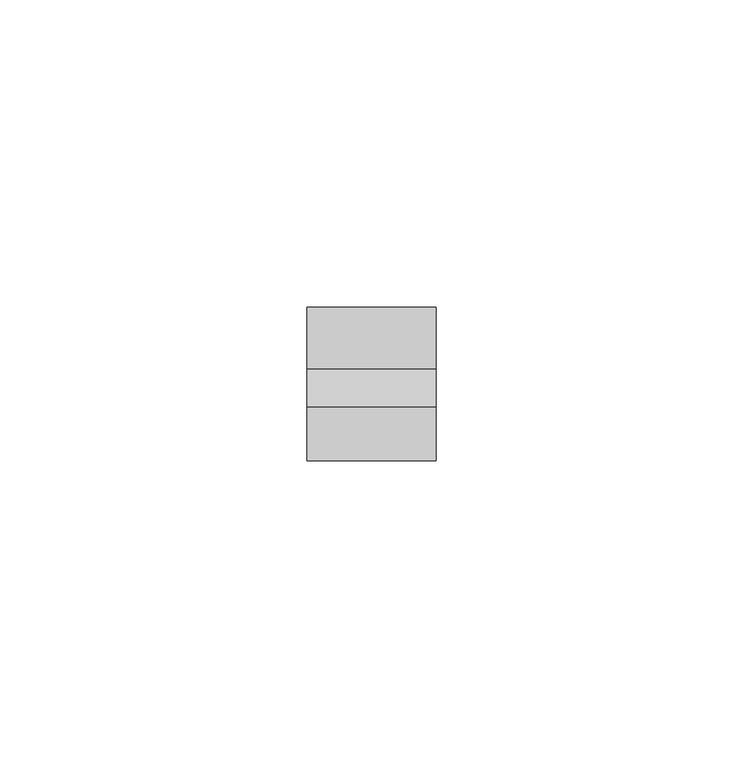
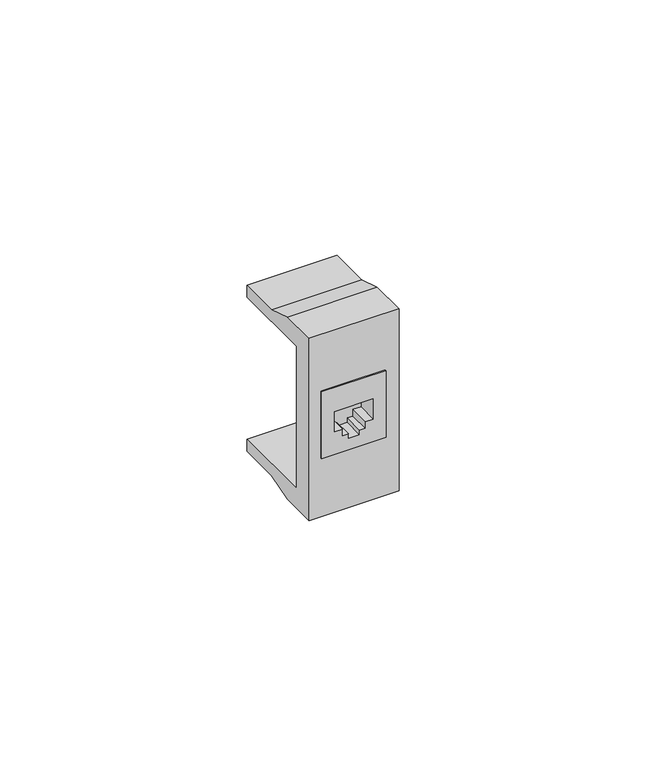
"""IFC4 building model written with IfcOpenShell, lengths in millimetres: proxy geometry, КНС_КомпьютерныеРозетки_DKC : Категория 5e."""

from ifc_helpers import new_model, si_unit, origin, place, context, project, spatial, faceted_brep, source, transform, mapped, element, save


def electrical_fixtures_a8bc6f34(model_context):
    return source(origin(), model_context, "Body", "Brep", [
        faceted_brep([(7.5, -25.0, 8.25), (-7.5, -25.0, 8.25), (-7.5, -25.0, -8.25), (7.5, -25.0, -8.25), (-2.6200027, -25.0, -2.65625), (-4.5217014, -25.0, -2.65625), (-4.5217014, -25.0, 2.3669591), (4.5217014, -25.0, 2.3669591), (4.5217014, -25.0, -2.65625), (2.6200027, -25.0, -2.65625), (2.6200027, -25.0, -4.2832694), (1.2532329, -25.0, -4.2832694), (1.2532329, -25.0, -5.3872156), (-1.2532329, -25.0, -5.3872156), (-1.2532329, -25.0, -4.2832694), (-2.6200027, -25.0, -4.2832694), (7.5, -16.2913439, 8.25), (7.5, -16.2913439, -8.25), (-7.5, -16.2913439, -8.25), (-7.5, -16.2913439, 8.25), (-4.5217014, -20.0, -2.65625), (-2.6200027, -20.0, -2.65625), (-2.6200027, -20.0, -4.2832694), (-1.2532329, -20.0, -4.2832694), (-1.2532329, -20.0, -5.3872156), (1.2532329, -20.0, -5.3872156), (1.2532329, -20.0, -4.2832694), (2.6200027, -20.0, -4.2832694), (2.6200027, -20.0, -2.65625), (4.5217014, -20.0, -2.65625), (4.5217014, -20.0, 2.3669591), (-4.5217014, -20.0, 2.3669591)], [[[0, 1, 2, 3], [4, 5, 6, 7, 8, 9, 10, 11, 12, 13, 14, 15]], [[16, 17, 18, 19]], [[1, 0, 16, 19]], [[2, 1, 19, 18]], [[3, 2, 18, 17]], [[0, 3, 17, 16]], [[20, 21, 22, 23, 24, 25, 26, 27, 28, 29, 30, 31]], [[21, 20, 5, 4]], [[22, 21, 4, 15]], [[23, 22, 15, 14]], [[24, 23, 14, 13]], [[25, 24, 13, 12]], [[26, 25, 12, 11]], [[27, 26, 11, 10]], [[28, 27, 10, 9]], [[29, 28, 9, 8]], [[30, 29, 8, 7]], [[31, 30, 7, 6]], [[20, 31, 6, 5]]]),
        faceted_brep([(10.5, -25.0, 22.5), (-10.5, -25.0, 22.5), (-10.5, -25.0, -22.5), (10.5, -25.0, -22.5), (7.5, -25.0, 8.25), (7.5, -25.0, -8.25), (-7.5, -25.0, -8.25), (-7.5, -25.0, 8.25), (10.5, 0.0, 20.5), (10.5, 0.0, 17.5), (-10.5, 0.0, 17.5), (-10.5, 0.0, 20.5), (10.5, 0.0, -17.5), (10.5, 0.0, -20.5), (-10.5, 0.0, -20.5), (-10.5, 0.0, -17.5), (10.5, -16.2913439, 22.5), (-10.5, -16.2913439, 22.5), (-10.5, -10.0, 20.5), (-10.5, -20.0, 17.5), (-10.5, -20.0, -17.5), (-10.5, -10.0, -20.5), (-10.5, -16.2913439, -22.5), (10.5, -16.2913439, -22.5), (10.5, -10.0, -20.5), (10.5, -20.0, -17.5), (10.5, -20.0, 17.5), (10.5, -10.0, 20.5), (7.5, -20.0, 8.25), (7.5, -20.0, -8.25), (-7.5, -20.0, -8.25), (-7.5, -20.0, 8.25)], [[[0, 1, 2, 3], [4, 5, 6, 7]], [[8, 9, 10, 11]], [[12, 13, 14, 15]], [[1, 0, 16, 17]], [[2, 1, 17, 18, 11, 10, 19, 20, 15, 14, 21, 22]], [[3, 2, 22, 23]], [[0, 3, 23, 24, 13, 12, 25, 26, 9, 8, 27, 16]], [[5, 4, 28, 29]], [[6, 5, 29, 30]], [[7, 6, 30, 31]], [[4, 7, 31, 28]], [[20, 25, 12, 15]], [[26, 19, 10, 9]], [[25, 20, 19, 26], [29, 28, 31, 30]], [[18, 27, 8, 11]], [[27, 18, 17, 16]], [[24, 21, 14, 13]], [[21, 24, 23, 22]]]),
    ])


if __name__ == "__main__":
    model = new_model("IFC4")
    model_context = context("Model", 3, world=origin())
    ifc_project = project(units=[si_unit("LENGTHUNIT", "METRE", prefix="MILLI")], contexts=[model_context])
    site = spatial("IfcSite", under=ifc_project)
    building = spatial("IfcBuilding", under=site)
    placement = place(None, origin())
    electrical_fixtures_shape = electrical_fixtures_a8bc6f34(model_context)
    element("IfcBuildingElementProxy", 1, Name="КНС_КомпьютерныеРозетки_DKC : Категория 5e", ObjectType="КНС_КомпьютерныеРозетки_DKC : Категория 5e", at=placement, inside=building, context=model_context, shape_type="MappedRepresentation", body=[
        mapped(electrical_fixtures_shape, transform((0.0, 0.0, 0.0), x_axis=(1.0, 0.0, 0.0), y_axis=(0.0, 1.0, 0.0), z_axis=(0.0, 0.0, 1.0))),
    ])
    save(model, "model.ifc")
